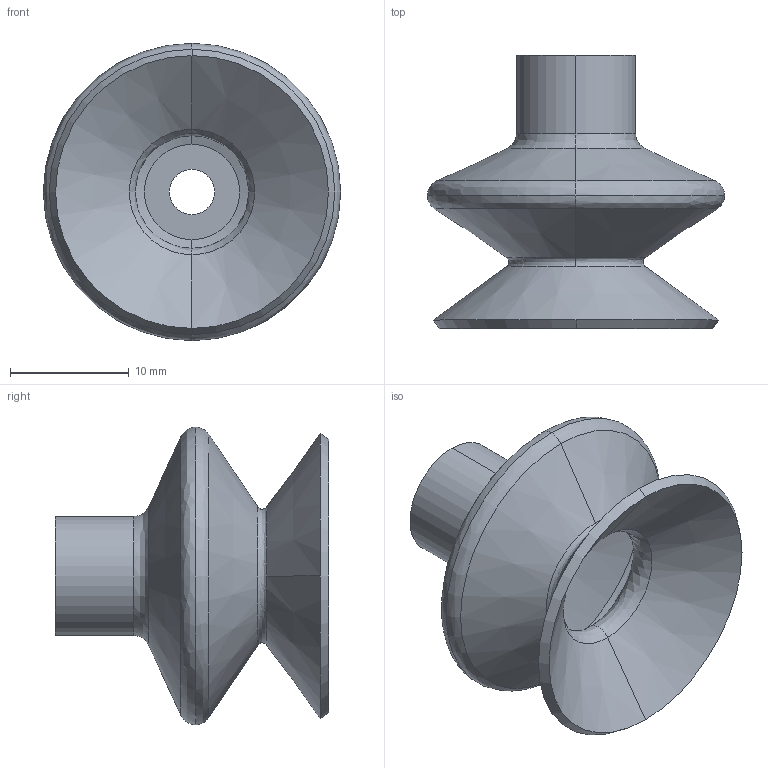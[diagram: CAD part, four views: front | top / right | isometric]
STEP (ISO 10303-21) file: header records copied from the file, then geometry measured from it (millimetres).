
FILE_DESCRIPTION (( 'STEP AP214' ), '1' );
FILE_NAME ('VS2-SA25.STEP', '2019-11-13T08:11:57', ( '微软用户' ), ( '微软中国' ), 'SwSTEP 2.0', 'SolidWorks 2016', '' );
FILE_SCHEMA (( 'AUTOMOTIVE_DESIGN' ));
Length unit declared in the file: millimetre
Products named in the file (1): VS2-SA25
Bounding box: 25 x 23 x 25 mm (x, y, z)
Volume: 1981.8 mm3; surface area: 3295.6 mm2
Topology: 1 solids, 1 shells, 34 faces, 72 edges, 40 vertices
Faces by surface type: cone 14, bspline 14, cylinder 4, plane 2
Entity records: 1096 total; most frequent: CARTESIAN_POINT 399, ORIENTED_EDGE 144, DIRECTION 140, EDGE_CURVE 72, AXIS2_PLACEMENT_3D 61, VERTEX_POINT 40, CIRCLE 40, EDGE_LOOP 36
